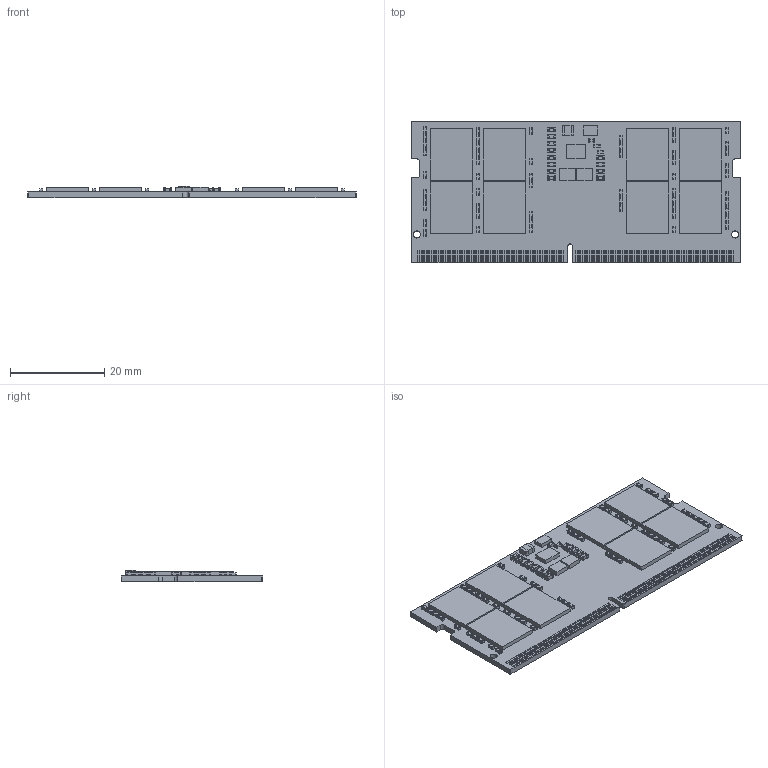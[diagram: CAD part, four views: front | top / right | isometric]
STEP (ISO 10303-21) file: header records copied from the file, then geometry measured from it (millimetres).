
FILE_DESCRIPTION((''),'2;1');
FILE_NAME('03_PCB_SODIMM_DDR5_M5SV-AGM2NC0_ASM','2021-12-21T13:10:09',('weichi_lo'),(''),'CREO PARAMETRIC BY PTC INC, 2020053','CREO PARAMETRIC BY PTC INC, 2020053','');
FILE_SCHEMA(('AUTOMOTIVE_DESIGN { 1 0 10303 214 1 1 1 1 }'));
Length unit declared in the file: millimetre
Products named in the file (13): 03_PCB_SODIMM_DDR5_M5SV-AGM2NC; PAD_TOP_SODIMM_DDR5; PAD_BOT_SODIMM_DDR5; DDR5-4800-5D5AGMF8CTMA0; EE_0402_9CM402U2-Z11; EE_0402_9CM402U2-Z11_ASM; EE_C0603_; EE_C0603_ASM_ASM; 9U6P8911X010; 9L1U684S0010_INDUCTOR_GOTREND; 9U1SP5118010; 9L11U54S0010; 03_PCB_SODIMM_DDR5_M5SV-AGM2NC0_ASM
Assembly tree (86 placements, depth 3):
  03_PCB_SODIMM_DDR5_M5SV-AGM2NC0_ASM
    03_PCB_SODIMM_DDR5_M5SV-AGM2NC
    PAD_TOP_SODIMM_DDR5
    PAD_BOT_SODIMM_DDR5
    DDR5-4800-5D5AGMF8CTMA0  x8
    EE_0402_9CM402U2-Z11_ASM  x56
      EE_0402_9CM402U2-Z11
    EE_C0603_ASM_ASM  x12
      EE_C0603_
    9U6P8911X010
    9L1U684S0010_INDUCTOR_GOTREND  x2
    9U1SP5118010
    9L11U54S0010
Bounding box: 69.6 x 30 x 2.43 mm (x, y, z)
Volume: 3284.3 mm3; surface area: 7197.2 mm2
Topology: 340 solids, 340 shells, 5264 faces, 10196 edges, 5624 vertices
Faces by surface type: plane 2675, cylinder 1597, sphere 992
Entity records: 68164 total; most frequent: CARTESIAN_POINT 7688, DIRECTION 7245, ORIENTED_EDGE 6932, PRESENTATION_STYLE_ASSIGNMENT 5193, STYLED_ITEM 5189, EDGE_CURVE 3466, VECTOR 3353, LINE 3353
